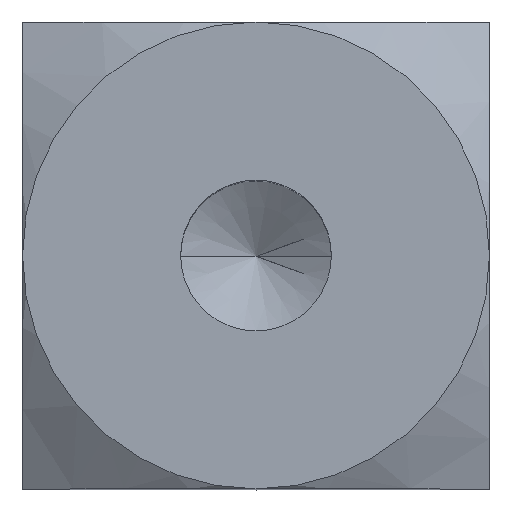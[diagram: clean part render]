
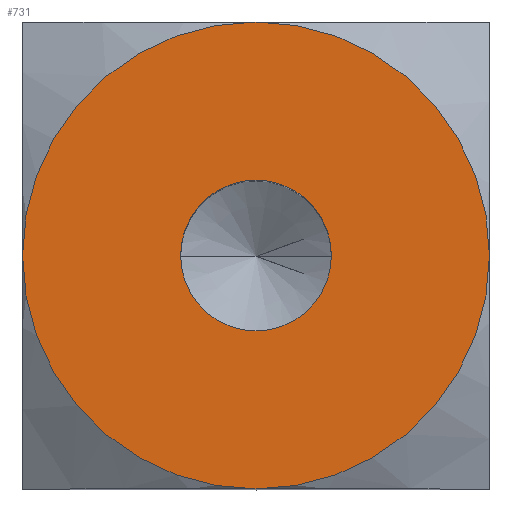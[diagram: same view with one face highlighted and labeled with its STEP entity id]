
A CAD part, top view. The second image highlights one B-rep face of the part: STEP entity #731.
In plain terms, the highlighted planar face has unit normal (0, 0, 1).
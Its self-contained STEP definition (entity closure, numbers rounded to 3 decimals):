
#55 = CARTESIAN_POINT ( 'NONE',  ( 6.578, -6.578, 17. ) ) ;
#56 = CIRCLE ( 'NONE', #987, 6.5 ) ;
#65 = ORIENTED_EDGE ( 'NONE', *, *, #476, .F. ) ;
#74 = CARTESIAN_POINT ( 'NONE',  ( 0., 0., 17. ) ) ;
#75 = VERTEX_POINT ( 'NONE', #680 ) ;
#89 = EDGE_CURVE ( 'NONE', #198, #75, #630, .T. ) ;
#98 = CIRCLE ( 'NONE', #335, 6.5 ) ;
#108 = EDGE_CURVE ( 'NONE', #75, #926, #98, .T. ) ;
#139 = DIRECTION ( 'NONE',  ( 1., 0., 0. ) ) ;
#149 = ORIENTED_EDGE ( 'NONE', *, *, #691, .T. ) ;
#187 = ORIENTED_EDGE ( 'NONE', *, *, #108, .T. ) ;
#190 = AXIS2_PLACEMENT_3D ( 'NONE', #594, #945, #861 ) ;
#192 = VERTEX_POINT ( 'NONE', #471 ) ;
#198 = VERTEX_POINT ( 'NONE', #460 ) ;
#228 = DIRECTION ( 'NONE',  ( -1., 0., 0. ) ) ;
#233 = CARTESIAN_POINT ( 'NONE',  ( 0., 6.5, 17. ) ) ;
#241 = DIRECTION ( 'NONE',  ( -1., 0., 0. ) ) ;
#242 = EDGE_LOOP ( 'NONE', ( #579, #187, #893, #149 ) ) ;
#249 = AXIS2_PLACEMENT_3D ( 'NONE', #922, #567, #299 ) ;
#299 = DIRECTION ( 'NONE',  ( -1., 0., 0. ) ) ;
#308 = DIRECTION ( 'NONE',  ( -1., 0., 0. ) ) ;
#324 = AXIS2_PLACEMENT_3D ( 'NONE', #574, #915, #139 ) ;
#335 = AXIS2_PLACEMENT_3D ( 'NONE', #585, #925, #406 ) ;
#389 = AXIS2_PLACEMENT_3D ( 'NONE', #74, #1084, #241 ) ;
#396 = CIRCLE ( 'NONE', #249, 6.5 ) ;
#406 = DIRECTION ( 'NONE',  ( -1., 0., 0. ) ) ;
#460 = CARTESIAN_POINT ( 'NONE',  ( -6.5, 0., 17. ) ) ;
#471 = CARTESIAN_POINT ( 'NONE',  ( -2.1, 0., 17. ) ) ;
#476 = EDGE_CURVE ( 'NONE', #648, #192, #950, .T. ) ;
#567 = DIRECTION ( 'NONE',  ( 0., 0., 1. ) ) ;
#574 = CARTESIAN_POINT ( 'NONE',  ( 0., 0., 17. ) ) ;
#575 = CARTESIAN_POINT ( 'NONE',  ( 2.1, 0., 17. ) ) ;
#579 = ORIENTED_EDGE ( 'NONE', *, *, #89, .T. ) ;
#585 = CARTESIAN_POINT ( 'NONE',  ( 0., 0., 17. ) ) ;
#594 = CARTESIAN_POINT ( 'NONE',  ( 0., 0., 17. ) ) ;
#630 = CIRCLE ( 'NONE', #389, 6.5 ) ;
#643 = VERTEX_POINT ( 'NONE', #233 ) ;
#648 = VERTEX_POINT ( 'NONE', #575 ) ;
#654 = AXIS2_PLACEMENT_3D ( 'NONE', #55, #901, #308 ) ;
#660 = CARTESIAN_POINT ( 'NONE',  ( 0., 0., 17. ) ) ;
#678 = FACE_OUTER_BOUND ( 'NONE', #242, .T. ) ;
#680 = CARTESIAN_POINT ( 'NONE',  ( 0., -6.5, 17. ) ) ;
#691 = EDGE_CURVE ( 'NONE', #643, #198, #56, .T. ) ;
#694 = EDGE_CURVE ( 'NONE', #926, #643, #396, .T. ) ;
#716 = ORIENTED_EDGE ( 'NONE', *, *, #755, .F. ) ;
#731 = ADVANCED_FACE ( 'NONE', ( #832, #678 ), #1014, .F. ) ;
#755 = EDGE_CURVE ( 'NONE', #192, #648, #881, .T. ) ;
#763 = EDGE_LOOP ( 'NONE', ( #65, #716 ) ) ;
#832 = FACE_BOUND ( 'NONE', #763, .T. ) ;
#861 = DIRECTION ( 'NONE',  ( 1., 0., 0. ) ) ;
#881 = CIRCLE ( 'NONE', #190, 2.1 ) ;
#893 = ORIENTED_EDGE ( 'NONE', *, *, #694, .T. ) ;
#901 = DIRECTION ( 'NONE',  ( 0., 0., -1. ) ) ;
#915 = DIRECTION ( 'NONE',  ( 0., 0., 1. ) ) ;
#922 = CARTESIAN_POINT ( 'NONE',  ( 0., 0., 17. ) ) ;
#925 = DIRECTION ( 'NONE',  ( 0., 0., 1. ) ) ;
#926 = VERTEX_POINT ( 'NONE', #956 ) ;
#945 = DIRECTION ( 'NONE',  ( 0., 0., 1. ) ) ;
#950 = CIRCLE ( 'NONE', #324, 2.1 ) ;
#956 = CARTESIAN_POINT ( 'NONE',  ( 6.5, 0., 17. ) ) ;
#987 = AXIS2_PLACEMENT_3D ( 'NONE', #660, #1076, #228 ) ;
#1014 = PLANE ( 'NONE',  #654 ) ;
#1076 = DIRECTION ( 'NONE',  ( 0., 0., 1. ) ) ;
#1084 = DIRECTION ( 'NONE',  ( 0., 0., 1. ) ) ;
